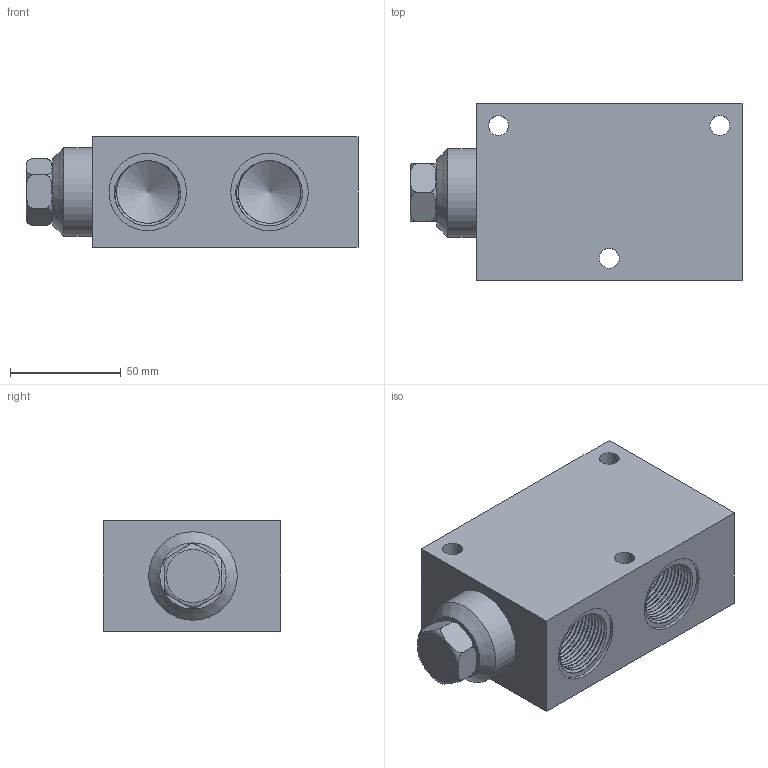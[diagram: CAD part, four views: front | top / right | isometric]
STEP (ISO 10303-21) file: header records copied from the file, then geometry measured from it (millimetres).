
FILE_DESCRIPTION(/* description */ (''),/* implementation_level */ '2;1');
FILE_NAME(/* name */ '22.stp',/* time_stamp */ '2023-05-01T20:42:44+08:00',/* author */ (''),/* organization */ (''),/* preprocessor_version */ 'ST-DEVELOPER v16.7',/* originating_system */ 'SIEMENS PLM Software NX 12.0',/* authorisation */ '');
FILE_SCHEMA (('AUTOMOTIVE_DESIGN { 1 0 10303 214 3 1 1 1 }'));
Length unit declared in the file: millimetre
Products named in the file (1): 22
Bounding box: 150 x 80 x 50 mm (x, y, z)
Volume: 426466.6 mm3; surface area: 61095.9 mm2
Topology: 2 solids, 2 shells, 49 faces, 124 edges, 83 vertices
Faces by surface type: plane 21, cylinder 13, bspline 9, cone 4, torus 2
Full cylindrical faces by diameter (mm): 9 x3, 35 x3, 40 x1
Entity records: 15455 total; most frequent: CARTESIAN_POINT 14435, ORIENTED_EDGE 202, DIRECTION 161, EDGE_CURVE 101, VERTEX_POINT 76, EDGE_LOOP 72, AXIS2_PLACEMENT_3D 67, ADVANCED_FACE 49
